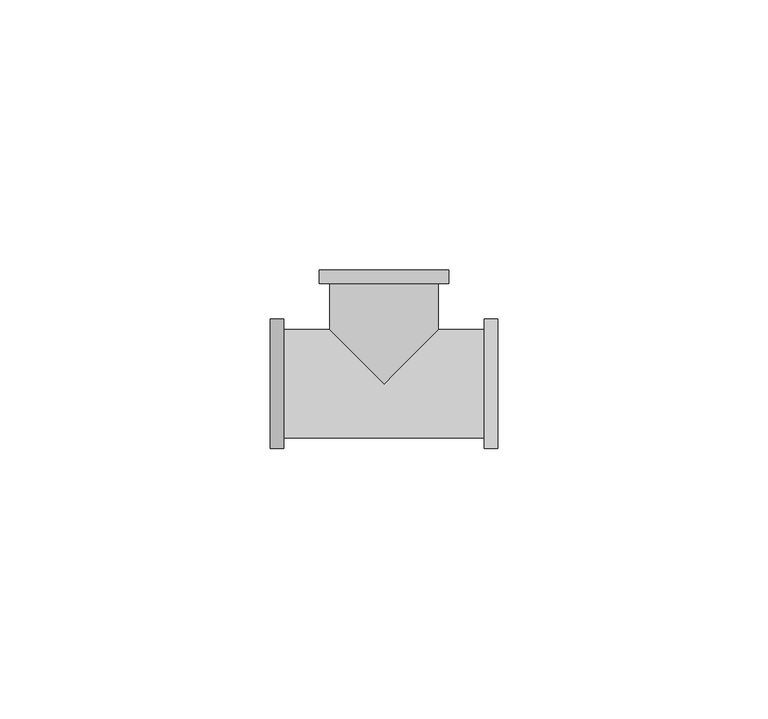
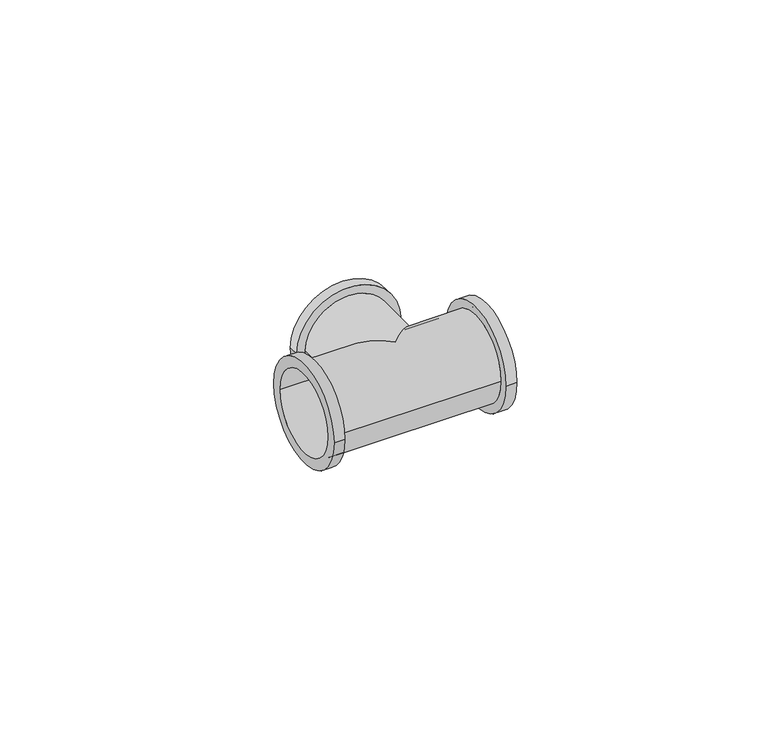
"""IFC4 building model written with IfcOpenShell, lengths in millimetres: pipe fitting geometry, БИР ПЕКС_КМП_Тройник ПЕКС : Тройник ПЕКС_КМП."""

import ifcopenshell
import ifcopenshell.guid

model = None  # the IFC model being written
_history = None  # IfcOwnerHistory: only IFC2X3 demands one
_inside = {}  # id of a spatial element -> (the spatial element, [elements in it])
_under = {}  # id of a project, library or spatial element -> (it, [spatial elements below it])
_declared = {}  # id of a project -> (the project, [libraries it declares])
_typed = {}  # id of a type object -> (the type object, [elements of that type])
_made_of = {}  # id of a material, layer set ... -> (it, [elements and type objects made of it])


def new_model(schema):
    """Start an empty IFC model of exactly this schema.

    Asked for "IFC4X3", IfcOpenShell would pick the latest addendum, in which some entities
    have other attributes; the version numbers below select the first issue.
    IFC2X3 requires an IfcOwnerHistory on every rooted entity: one is made here for all.
    """
    global model, _history
    if schema == "IFC4X3":
        model = ifcopenshell.file(schema_version=(4, 3, 0, 0))
    else:
        model = ifcopenshell.file(schema=schema)
    _inside.clear()
    _under.clear()
    _declared.clear()
    _typed.clear()
    _made_of.clear()
    _history = None
    if model.schema == "IFC2X3":
        org = make("IfcOrganization", Name="unknown")
        user = make(
            "IfcPersonAndOrganization",
            ThePerson=make("IfcPerson", FamilyName="unknown"),
            TheOrganization=org,
        )
        app = make(
            "IfcApplication",
            ApplicationDeveloper=org,
            Version="unknown",
            ApplicationFullName="unknown",
            ApplicationIdentifier="unknown",
        )
        _history = make(
            "IfcOwnerHistory",
            OwningUser=user,
            OwningApplication=app,
            ChangeAction="ADDED",
            CreationDate=0,
        )
    return model


def make(cls, **values):
    """One entity of the class cls with the attributes given. An attribute that is None is left unset."""
    return model.create_entity(
        cls, **{name: value for name, value in values.items() if value is not None}
    )


def rooted(cls, **values):
    """An entity with a GlobalId (a new one), such as an element, a storey or a relation."""
    return make(cls, GlobalId=ifcopenshell.guid.new(), OwnerHistory=_history, **values)


def si_unit(unit_type, name, prefix=None):
    """IfcSIUnit, for example si_unit("LENGTHUNIT", "METRE", prefix="MILLI")."""
    return make("IfcSIUnit", UnitType=unit_type, Prefix=prefix, Name=name)


def assignment(units):
    """IfcUnitAssignment: the units of a project."""
    return None if units is None else make("IfcUnitAssignment", Units=units)


def point(xyz):
    """IfcCartesianPoint."""
    return None if xyz is None else make("IfcCartesianPoint", Coordinates=xyz)


def direction(xyz):
    """IfcDirection."""
    return None if xyz is None else make("IfcDirection", DirectionRatios=xyz)


def frame(location, z_axis=None, x_axis=None):
    """IfcAxis2Placement3D, a coordinate frame: its origin and axes. An axis left out is left unset."""
    return make(
        "IfcAxis2Placement3D",
        Location=point(location),
        Axis=direction(z_axis),
        RefDirection=direction(x_axis),
    )


def origin():
    """The frame at (0, 0, 0) with its axes left unset."""
    return frame((0.0, 0.0, 0.0))


def place(relative_to, where):
    """IfcLocalPlacement: puts the frame where relative to a parent placement (None: the world)."""
    return make(
        "IfcLocalPlacement", PlacementRelTo=relative_to, RelativePlacement=where
    )


def context(
    kind, dimensions, precision=None, world=None, true_north=None, identifier=None
):
    """IfcGeometricRepresentationContext, for example the 3D "Model" context."""
    return make(
        "IfcGeometricRepresentationContext",
        ContextIdentifier=identifier,
        ContextType=kind,
        CoordinateSpaceDimension=dimensions,
        Precision=precision,
        WorldCoordinateSystem=world,
        TrueNorth=true_north,
    )


def project(units=None, contexts=None):
    """IfcProject with its units and contexts."""
    return rooted(
        "IfcProject",
        Name="project",
        RepresentationContexts=contexts,
        UnitsInContext=assignment(units),
    )


def spatial(cls, under=None, at=None, **own):
    """A site, building, storey or space (cls), placed at a placement, below another one or the project."""
    s = rooted(cls, ObjectPlacement=at, **own)
    if under is not None:
        _under.setdefault(under.id(), (under, []))[1].append(s)
    return s


def polyline(points):
    """IfcPolyline through the points."""
    return make("IfcPolyline", Points=[point(p) for p in points])


def circle_curve(where, radius):
    """IfcCircle in the frame where."""
    return make("IfcCircle", Position=where, Radius=radius)


def ellipse_curve(where, semi_axis1, semi_axis2):
    """IfcEllipse in the frame where."""
    return make(
        "IfcEllipse", Position=where, SemiAxis1=semi_axis1, SemiAxis2=semi_axis2
    )


def shape(context_of_items, identifier, shape_type, items):
    """IfcShapeRepresentation: the items that make up one representation, for example the "Body"."""
    return make(
        "IfcShapeRepresentation",
        ContextOfItems=context_of_items,
        RepresentationIdentifier=identifier,
        RepresentationType=shape_type,
        Items=items,
    )


def source(mapping_origin, context_of_items, identifier, shape_type, items):
    """IfcRepresentationMap: a shape defined once, which mapped items show again and again."""
    return make(
        "IfcRepresentationMap",
        MappingOrigin=mapping_origin,
        MappedRepresentation=shape(context_of_items, identifier, shape_type, items),
    )


def transform(
    local_origin,
    x_axis=None,
    y_axis=None,
    z_axis=None,
    scale=None,
    scale2=None,
    scale3=None,
    uniform=True,
):
    """IfcCartesianTransformationOperator3D, or its non-uniform kind. x_axis, y_axis, z_axis: its Axis1, 2, 3."""
    if uniform:
        return make(
            "IfcCartesianTransformationOperator3D",
            Axis1=direction(x_axis),
            Axis2=direction(y_axis),
            LocalOrigin=point(local_origin),
            Scale=scale,
            Axis3=direction(z_axis),
        )
    return make(
        "IfcCartesianTransformationOperator3DnonUniform",
        Axis1=direction(x_axis),
        Axis2=direction(y_axis),
        LocalOrigin=point(local_origin),
        Scale=scale,
        Axis3=direction(z_axis),
        Scale2=scale2,
        Scale3=scale3,
    )


def mapped(mapping_source, mapping_target):
    """IfcMappedItem: shows the shape of a source again, moved by a transform."""
    return make(
        "IfcMappedItem", MappingSource=mapping_source, MappingTarget=mapping_target
    )


def made_of(thing, what):
    """Note that an element or type object is made of a material, layer set ...; save() writes the relation."""
    if what is not None:
        _made_of.setdefault(what.id(), (what, []))[1].append(thing)
    return thing


def element(
    cls,
    number,
    at=None,
    inside=None,
    cuts=None,
    type_object=None,
    material=None,
    context=None,
    identifier="Body",
    shape_type=None,
    held_by="IfcProductDefinitionShape",
    body=None,
    shapes=None,
    **own,
):
    """One element of the class cls, such as IfcWall. Its Tag is "e" and its number.

    at: its placement. inside: the storey or other place that contains it. cuts: it is an
    opening in that element (IfcRelVoidsElement). A single representation is given by context,
    identifier, shape_type and body (its items); several are given by shapes. held_by: the class
    of the entity that holds the representations. save() writes the other relations.
    """
    e = rooted(cls, Tag="e%d" % number, ObjectPlacement=at, **own)
    if body is not None:
        shapes = [shape(context, identifier, shape_type, body)]
    if shapes is not None:
        e.Representation = make(held_by, Representations=shapes)
    if inside is not None:
        _inside.setdefault(inside.id(), (inside, []))[1].append(e)
    if cuts is not None:
        rooted(
            "IfcRelVoidsElement", RelatingBuildingElement=cuts, RelatedOpeningElement=e
        )
    if type_object is not None:
        _typed.setdefault(type_object.id(), (type_object, []))[1].append(e)
    return made_of(e, material)


def aggregate(whole, parts):
    """IfcRelAggregates: a whole, such as a stair, and the parts it consists of."""
    return rooted("IfcRelAggregates", RelatingObject=whole, RelatedObjects=parts)


def save(model, path):
    """Write the relations noted so far, then the file.

    IfcRelAggregates (storeys below a building ...), IfcRelContainedInSpatialStructure (elements
    in a storey), IfcRelDefinesByType, IfcRelAssociatesMaterial and IfcRelDeclares: one each for
    every whole, place, type object, material and project.
    """
    for whole, parts in _under.values():
        aggregate(whole, parts)
    for where, things in _inside.values():
        rooted(
            "IfcRelContainedInSpatialStructure",
            RelatedElements=things,
            RelatingStructure=where,
        )
    for kind, things in _typed.values():
        rooted("IfcRelDefinesByType", RelatedObjects=things, RelatingType=kind)
    for what, things in _made_of.values():
        rooted("IfcRelAssociatesMaterial", RelatedObjects=things, RelatingMaterial=what)
    for by, libraries in _declared.values():
        rooted("IfcRelDeclares", RelatingContext=by, RelatedDefinitions=libraries)
    model.write(path)


def plane_surface(at):
    """IfcPlane: the flat surface through the origin of the frame at, square to its z axis."""
    return make("IfcPlane", Position=at)


def cylinder_surface(at, radius):
    """IfcCylindricalSurface: all points at the distance radius from the z axis of the frame at."""
    return make("IfcCylindricalSurface", Position=at, Radius=radius)


def revolved_surface(curve, axis_point, axis_direction):
    """IfcSurfaceOfRevolution: the curve turned about the line through axis_point along axis_direction."""
    return make(
        "IfcSurfaceOfRevolution",
        SweptCurve=make("IfcArbitraryOpenProfileDef", ProfileType="CURVE", Curve=curve),
        AxisPosition=make("IfcAxis1Placement", Location=point(axis_point), Axis=direction(axis_direction)),
    )


def advanced_brep(points, edges, surfaces, faces):
    """IfcAdvancedBrep: a solid bounded by faces that lie on surfaces and meet in shared edges.

    An edge is (start, end): straight between two places in points (the first is 0);
    or (start, end, curve); or (start, end, curve, False) where it runs against its curve.
    A face is (place in surfaces, loops), or (place, loops, False) where it looks against
    its surface's normal. A loop lists edges by number (the first is 1), with a minus sign
    where the edge is run from its end to its start. The first loop is the outer one.
    """
    corners = [point(p) for p in points]
    vertices = [make("IfcVertexPoint", VertexGeometry=c) for c in corners]
    made = []
    for start, end, *more in edges:
        made.append(
            make(
                "IfcEdgeCurve",
                EdgeStart=vertices[start],
                EdgeEnd=vertices[end],
                EdgeGeometry=more[0] if more else make("IfcPolyline", Points=[corners[start], corners[end]]),
                SameSense=more[1] if len(more) > 1 else True,
            )
        )
    hull = []
    for where, loops, *sense in faces:
        bounds = []
        for j, loop in enumerate(loops):
            ring = [make("IfcOrientedEdge", EdgeElement=made[abs(k) - 1], Orientation=k > 0) for k in loop]
            bounds.append(
                make(
                    "IfcFaceOuterBound" if j == 0 else "IfcFaceBound",
                    Bound=make("IfcEdgeLoop", EdgeList=ring),
                    Orientation=True,
                )
            )
        hull.append(make("IfcAdvancedFace", Bounds=bounds, FaceSurface=surfaces[where], SameSense=sense[0] if sense else True))
    return make("IfcAdvancedBrep", Outer=make("IfcClosedShell", CfsFaces=hull))


def pipe_fitting_e0c891ea(model_context):
    return source(origin(), model_context, "Body", "AdvancedBrep", [
        advanced_brep(
        [(-12.0, 21.0, 0.0), (12.0, 21.0, 0.0), (-9.5, 21.0, 0.0), (9.5, 21.0, 0.0), (10.0, 10.0, 0.0), (0.0, 0.0, -10.0), (-10.0, 10.0, 0.0), (-10.0, 18.5, 0.0), (10.0, 18.5, 0.0), (0.0, 0.0, 10.0), (21.0, -12.0, 0.0), (21.0, 12.0, 0.0), (21.0, 9.5, 0.0), (21.0, -9.5, 0.0), (-21.0, -12.0, 0.0), (-21.0, 12.0, 0.0), (-21.0, -9.5, 0.0), (-21.0, 9.5, 0.0), (18.5, 10.0, 0.0), (18.5, -10.0, 0.0), (-18.5, -10.0, 0.0), (-18.5, 10.0, 0.0), (-12.0, 18.5, 0.0), (12.0, 18.5, 0.0), (-18.5, -12.0, 0.0), (-18.5, 12.0, 0.0), (18.5, -12.0, 0.0), (18.5, 12.0, 0.0), (-9.5, 9.5, 0.0), (0.0, 0.0, -9.5), (9.5, 9.5, 0.0), (0.0, 0.0, 9.5)],
        [
            (0, 1, circle_curve(frame((0.0, 21.0, 0.0), z_axis=(0.0, 1.0, 0.0), x_axis=(1.0, 0.0, 0.0)), 12.0)),
            (1, 0, circle_curve(frame((0.0, 21.0, 0.0), z_axis=(0.0, 1.0, 0.0), x_axis=(1.0, 0.0, 0.0)), 12.0)),
            (2, 3, circle_curve(frame((0.0, 21.0, 0.0), z_axis=(0.0, -1.0, 0.0), x_axis=(1.0, 0.0, 0.0)), 9.5)),
            (3, 2, circle_curve(frame((0.0, 21.0, 0.0), z_axis=(0.0, -1.0, 0.0), x_axis=(1.0, 0.0, 0.0)), 9.5)),
            (4, 5, ellipse_curve(frame((0.0, 0.0, 0.0), z_axis=(-0.7071067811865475, 0.7071067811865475, 0.0), x_axis=(-0.7071067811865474, -0.7071067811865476, 0.0)), 14.1421356, 10.0)),
            (5, 6, ellipse_curve(frame((0.0, 0.0, 0.0), z_axis=(0.7071067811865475, 0.7071067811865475, 0.0), x_axis=(0.7071067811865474, -0.7071067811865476, 0.0)), 14.1421356, 10.0)),
            (6, 7),
            (7, 8, circle_curve(frame((0.0, 18.5, 0.0), z_axis=(0.0, -1.0, 0.0), x_axis=(1.0, 0.0, 0.0)), 10.0)),
            (8, 4),
            (9, 4, ellipse_curve(frame((0.0, 0.0, 0.0), z_axis=(-0.7071067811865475, 0.7071067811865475, 0.0), x_axis=(-0.7071067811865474, -0.7071067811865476, 0.0)), 14.1421356, 10.0)),
            (8, 7, circle_curve(frame((0.0, 18.5, 0.0), z_axis=(0.0, -1.0, 0.0), x_axis=(1.0, 0.0, 0.0)), 10.0)),
            (6, 9, ellipse_curve(frame((0.0, 0.0, 0.0), z_axis=(0.7071067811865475, 0.7071067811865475, 0.0), x_axis=(0.7071067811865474, -0.7071067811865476, 0.0)), 14.1421356, 10.0)),
            (10, 11, circle_curve(frame((21.0, 0.0, 0.0), z_axis=(1.0, 0.0, 0.0), x_axis=(0.0, 1.0, 0.0)), 12.0)),
            (11, 10, circle_curve(frame((21.0, 0.0, 0.0), z_axis=(1.0, 0.0, 0.0), x_axis=(0.0, 1.0, 0.0)), 12.0)),
            (12, 13, circle_curve(frame((21.0, 0.0, 0.0), z_axis=(-1.0, 0.0, 0.0), x_axis=(0.0, 1.0, 0.0)), 9.5)),
            (13, 12, circle_curve(frame((21.0, 0.0, 0.0), z_axis=(-1.0, 0.0, 0.0), x_axis=(0.0, 1.0, 0.0)), 9.5)),
            (14, 15, circle_curve(frame((-21.0, 0.0, 0.0), z_axis=(-1.0, 0.0, 0.0), x_axis=(0.0, 1.0, 0.0)), 12.0)),
            (15, 14, circle_curve(frame((-21.0, 0.0, 0.0), z_axis=(-1.0, 0.0, 0.0), x_axis=(0.0, 1.0, 0.0)), 12.0)),
            (16, 17, circle_curve(frame((-21.0, 0.0, 0.0), z_axis=(1.0, 0.0, 0.0), x_axis=(0.0, 1.0, 0.0)), 9.5)),
            (17, 16, circle_curve(frame((-21.0, 0.0, 0.0), z_axis=(1.0, 0.0, 0.0), x_axis=(0.0, 1.0, 0.0)), 9.5)),
            (4, 18),
            (18, 19, circle_curve(frame((18.5, 0.0, 0.0), z_axis=(-1.0, 0.0, 0.0), x_axis=(0.0, 1.0, 0.0)), 10.0)),
            (19, 20),
            (20, 21, circle_curve(frame((-18.5, 0.0, 0.0), z_axis=(1.0, 0.0, 0.0), x_axis=(0.0, 1.0, 0.0)), 10.0)),
            (21, 6),
            (21, 20, circle_curve(frame((-18.5, 0.0, 0.0), z_axis=(1.0, 0.0, 0.0), x_axis=(0.0, 1.0, 0.0)), 10.0)),
            (19, 18, circle_curve(frame((18.5, 0.0, 0.0), z_axis=(-1.0, 0.0, 0.0), x_axis=(0.0, 1.0, 0.0)), 10.0)),
            (22, 23, circle_curve(frame((0.0, 18.5, 0.0), z_axis=(0.0, -1.0, 0.0), x_axis=(1.0, 0.0, 0.0)), 12.0)),
            (23, 22, circle_curve(frame((0.0, 18.5, 0.0), z_axis=(0.0, -1.0, 0.0), x_axis=(1.0, 0.0, 0.0)), 12.0)),
            (22, 0),
            (1, 23),
            (24, 25, circle_curve(frame((-18.5, 0.0, 0.0), z_axis=(1.0, 0.0, 0.0), x_axis=(0.0, 1.0, 0.0)), 12.0)),
            (25, 24, circle_curve(frame((-18.5, 0.0, 0.0), z_axis=(1.0, 0.0, 0.0), x_axis=(0.0, 1.0, 0.0)), 12.0)),
            (15, 25),
            (24, 14),
            (26, 27, circle_curve(frame((18.5, 0.0, 0.0), z_axis=(-1.0, 0.0, 0.0), x_axis=(0.0, 1.0, 0.0)), 12.0)),
            (27, 26, circle_curve(frame((18.5, 0.0, 0.0), z_axis=(-1.0, 0.0, 0.0), x_axis=(0.0, 1.0, 0.0)), 12.0)),
            (10, 26),
            (27, 11),
            (2, 28),
            (28, 29, ellipse_curve(frame((0.0, 0.0, 0.0), z_axis=(-0.7071067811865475, -0.7071067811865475, 0.0), x_axis=(0.7071067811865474, -0.7071067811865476, 0.0)), 13.4350288, 9.5)),
            (29, 30, ellipse_curve(frame((0.0, 0.0, 0.0), z_axis=(0.7071067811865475, -0.7071067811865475, 0.0), x_axis=(-0.7071067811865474, -0.7071067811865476, 0.0)), 13.4350288, 9.5)),
            (30, 3),
            (30, 31, ellipse_curve(frame((0.0, 0.0, 0.0), z_axis=(0.7071067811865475, -0.7071067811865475, 0.0), x_axis=(-0.7071067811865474, -0.7071067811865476, 0.0)), 13.4350288, 9.5)),
            (31, 28, ellipse_curve(frame((0.0, 0.0, 0.0), z_axis=(-0.7071067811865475, -0.7071067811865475, 0.0), x_axis=(0.7071067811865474, -0.7071067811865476, 0.0)), 13.4350288, 9.5)),
            (16, 13),
            (12, 30),
            (28, 17),
        ],
        [
            plane_surface(frame((10.0, 21.0, 0.0), z_axis=(0.0, 1.0, 0.0), x_axis=(0.0, 0.0, -1.0))),
            cylinder_surface(frame((0.0, 21.0, 0.0), z_axis=(0.0, -1.0, 0.0), x_axis=(1.0, 0.0, 0.0)), 10.0),
            plane_surface(frame((21.0, 10.0, 0.0), z_axis=(1.0, 0.0, 0.0), x_axis=(0.0, 0.0, 1.0))),
            plane_surface(frame((-21.0, 10.0, 0.0), z_axis=(-1.0, 0.0, 0.0), x_axis=(0.0, 0.0, -1.0))),
            cylinder_surface(frame((-21.0, 0.0, 0.0), z_axis=(1.0, 0.0, 0.0), x_axis=(0.0, 1.0, 0.0)), 10.0),
            plane_surface(frame((12.0, 18.5, 0.0), z_axis=(0.0, -1.0, 0.0), x_axis=(0.0, 0.0, 1.0))),
            cylinder_surface(frame((0.0, 21.0, 0.0), z_axis=(0.0, -1.0, 0.0), x_axis=(1.0, 0.0, 0.0)), 12.0),
            plane_surface(frame((-18.5, 12.0, 0.0), z_axis=(1.0, 0.0, 0.0), x_axis=(0.0, 0.0, 1.0))),
            cylinder_surface(frame((-18.5, 0.0, 0.0), z_axis=(-1.0, 0.0, 0.0), x_axis=(0.0, 1.0, 0.0)), 12.0),
            plane_surface(frame((18.5, 12.0, 0.0), z_axis=(-1.0, 0.0, 0.0), x_axis=(0.0, 0.0, -1.0))),
            cylinder_surface(frame((18.5, 0.0, 0.0), z_axis=(1.0, 0.0, 0.0), x_axis=(0.0, 1.0, 0.0)), 12.0),
            revolved_surface(polyline([(9.5, -9.499999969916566, 0.0), (9.5, 21.0, 0.0)]), (0.0, 21.0, 0.0), (0.0, -1.0, 0.0)),
            revolved_surface(polyline([(21.0, 9.5, 0.0), (-21.0, 9.5, 0.0)]), (-21.0, 0.0, 0.0), (1.0, 0.0, 0.0)),
        ],
        [
            (0, [[1, 2], [3, 4]]),
            (1, [[5, 6, 7, 8, 9]]),
            (1, [[10, -9, 11, -7, 12]]),
            (2, [[13, 14], [15, 16]]),
            (3, [[17, 18], [19, 20]]),
            (4, [[-5, 21, 22, 23, 24, 25, -6]]),
            (4, [[-10, -12, -25, 26, -23, 27, -21]]),
            (5, [[28, 29], [-8, -11]]),
            (6, [[-28, 30, -2, 31]]),
            (6, [[-29, -31, -1, -30]]),
            (7, [[32, 33], [-24, -26]]),
            (8, [[-18, 34, -32, 35]]),
            (8, [[-17, -35, -33, -34]]),
            (9, [[36, 37], [-22, -27]]),
            (10, [[-13, 38, -37, 39]]),
            (10, [[-14, -39, -36, -38]]),
            (11, [[-3, 40, 41, 42, 43]]),
            (11, [[-4, -43, 44, 45, -40]]),
            (12, [[46, -15, 47, -42, -41, 48, -19]]),
            (12, [[-46, -20, -48, -45, -44, -47, -16]]),
        ],
    ),
    ])


if __name__ == "__main__":
    model = new_model("IFC4")
    model_context = context("Model", 3, world=origin())
    ifc_project = project(units=[si_unit("LENGTHUNIT", "METRE", prefix="MILLI")], contexts=[model_context])
    site = spatial("IfcSite", under=ifc_project)
    building = spatial("IfcBuilding", under=site)
    placement = place(None, origin())
    pipe_fitting_shape = pipe_fitting_e0c891ea(model_context)
    element("IfcPipeFitting", 1, ObjectType="БИР ПЕКС_КМП_Тройник ПЕКС : Тройник ПЕКС_КМП", at=placement, inside=building, context=model_context, shape_type="MappedRepresentation", body=[
        mapped(pipe_fitting_shape, transform((0.0, 0.0, 0.0), x_axis=(1.0, 0.0, 0.0), y_axis=(0.0, 1.0, 0.0), z_axis=(0.0, 0.0, 1.0))),
    ])
    save(model, "model.ifc")
